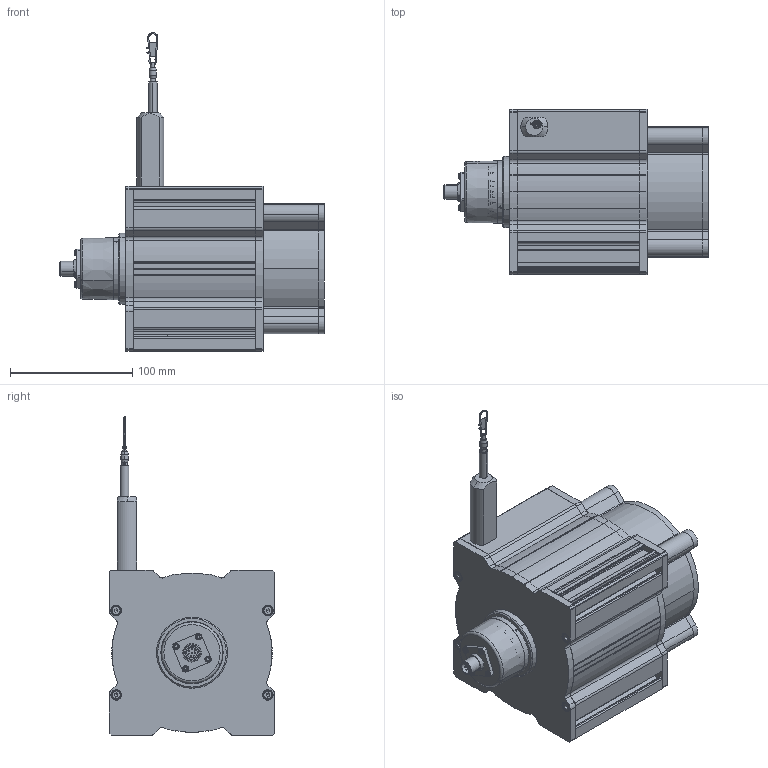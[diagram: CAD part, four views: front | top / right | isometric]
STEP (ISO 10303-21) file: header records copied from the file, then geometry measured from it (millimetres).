
FILE_DESCRIPTION (( 'STEP AP214' ), '1' );
FILE_NAME ('D8.4D1.2000.0053.2000.STEP', '2009-05-12T09:32:56', ( 'admin' ), ( 'Fritz Kübler GmbH' ), 'SwSTEP 2.0', 'SolidWorks 2009', '' );
FILE_SCHEMA (( 'AUTOMOTIVE_DESIGN' ));
Length unit declared in the file: millimetre
Products named in the file (1): D8.4D1.2000.0053.2000
Bounding box: 216 x 135 x 260.32 mm (x, y, z)
Volume: 590398.2 mm3; surface area: 318615.5 mm2
Topology: 30 solids, 30 shells, 1534 faces, 4057 edges, 2602 vertices
Faces by surface type: cylinder 699, plane 503, cone 182, torus 94, sphere 36, bspline 20
Entity records: 67454 total; most frequent: CARTESIAN_POINT 11356, DIRECTION 8663, ORIENTED_EDGE 7946, EDGE_CURVE 3973, AXIS2_PLACEMENT_3D 3390, VERTEX_POINT 2573, VECTOR 1883, LINE 1883
